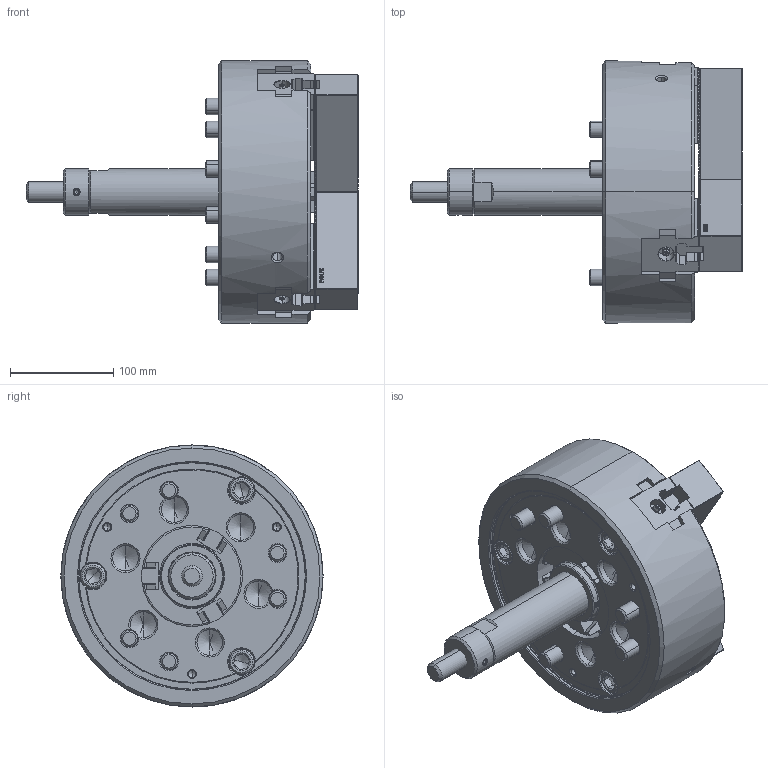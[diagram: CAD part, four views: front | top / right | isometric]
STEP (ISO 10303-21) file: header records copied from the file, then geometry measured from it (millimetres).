
FILE_DESCRIPTION (( 'STEP AP214' ), '1' );
FILE_NAME ('DT1_NL10_OUTSIDE_VIEW_HOL.STEP', '2026-03-19T06:29:40', ( '' ), ( '' ), 'SwSTEP 2.0', 'SolidWorks 2022', '' );
FILE_SCHEMA (( 'AUTOMOTIVE_DESIGN' ));
Length unit declared in the file: millimetre
Products named in the file (11): DT1_NL10_OUTSIDE_VIEW_HOL; DT1_NL10_M16x85^DT1_NL10; DT1_NL10_BASE^DT1_NL10; Copy of 61P335751^DT1_NL10; DT1_NL10_SOFTJAW^DT1_NL10; DT1_NL10_M12x35^DT1_NL10; DT1_NL10_DN^DT1_NL10; DT1_NL10_TNUT^DT1_NL10; DT1_NL10_M5x12^DT1_NL10; DT1_NL10_DRAWSCREW^DT1_NL10; DT1_NL10_COVER^DT1_NL10
Assembly tree (26 placements, depth 2):
  DT1_NL10_OUTSIDE_VIEW_HOL
    DT1_NL10_SOFTJAW^DT1_NL10  x3
    DT1_NL10_TNUT^DT1_NL10  x3
    DT1_NL10_COVER^DT1_NL10
    DT1_NL10_DRAWSCREW^DT1_NL10
    Copy of 61P335751^DT1_NL10
    DT1_NL10_M16x85^DT1_NL10  x6
    DT1_NL10_M12x35^DT1_NL10  x6
    DT1_NL10_M5x12^DT1_NL10  x3
    DT1_NL10_DN^DT1_NL10
    DT1_NL10_BASE^DT1_NL10
Bounding box: 321.71 x 254 x 254 mm (x, y, z)
Volume: 4783510.6 mm3; surface area: 509580.5 mm2
Topology: 26 solids, 26 shells, 5487 faces, 15619 edges, 10246 vertices
Faces by surface type: plane 3252, cylinder 1485, cone 433, bspline 242, torus 69, sphere 6
Entity records: 118454 total; most frequent: CARTESIAN_POINT 33143, ORIENTED_EDGE 19450, DIRECTION 15281, EDGE_CURVE 9725, LINE 6809, VECTOR 6809, VERTEX_POINT 6386, AXIS2_PLACEMENT_3D 4236
